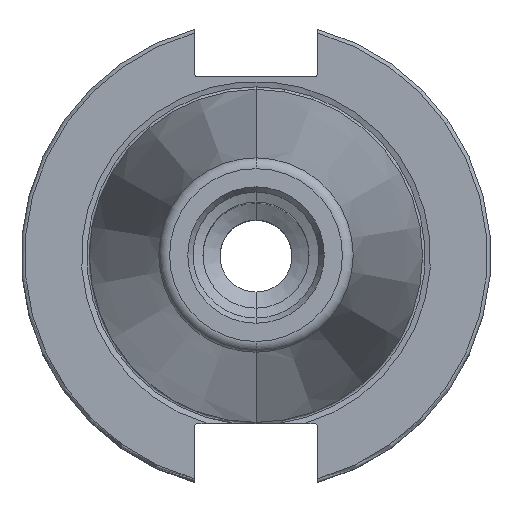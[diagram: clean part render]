
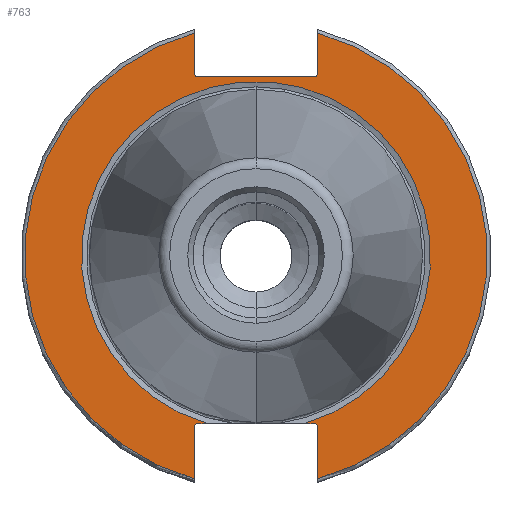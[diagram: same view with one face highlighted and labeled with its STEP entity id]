
A CAD part, top view. The second image highlights one B-rep face of the part: STEP entity #763.
In plain terms, the highlighted planar face has unit normal (0, 0, 1).
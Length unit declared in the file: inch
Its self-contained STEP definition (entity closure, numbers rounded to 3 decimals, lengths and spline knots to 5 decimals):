
#138 = CARTESIAN_POINT ( 'NONE',  ( 0., 0., -0.125 ) ) ;
#161 = CARTESIAN_POINT ( 'NONE',  ( 1.9075, -1.3825, -0.125 ) ) ;
#198 = CARTESIAN_POINT ( 'NONE',  ( -0.48, -1.4125, -0.125 ) ) ;
#223 = AXIS2_PLACEMENT_3D ( 'NONE', #3262, #2871, #3538 ) ;
#237 = VECTOR ( 'NONE', #1764, 39.37008 ) ;
#256 = CARTESIAN_POINT ( 'NONE',  ( 0.48, 1.4775, -0.125 ) ) ;
#261 = CIRCLE ( 'NONE', #1343, 0.03 ) ;
#317 = CARTESIAN_POINT ( 'NONE',  ( 1.9075, 1.4775, -0.125 ) ) ;
#335 = EDGE_CURVE ( 'NONE', #3360, #2115, #3699, .T. ) ;
#359 = DIRECTION ( 'NONE',  ( 0., 1., 0. ) ) ;
#366 = VERTEX_POINT ( 'NONE', #3313 ) ;
#396 = CARTESIAN_POINT ( 'NONE',  ( -0.48, 1.5075, -0.125 ) ) ;
#504 = LINE ( 'NONE', #888, #3402 ) ;
#595 = AXIS2_PLACEMENT_3D ( 'NONE', #1760, #4372, #359 ) ;
#634 = CARTESIAN_POINT ( 'NONE',  ( 0.51, 0., -0.125 ) ) ;
#670 = VECTOR ( 'NONE', #4340, 39.37008 ) ;
#678 = ORIENTED_EDGE ( 'NONE', *, *, #4482, .T. ) ;
#763 = ADVANCED_FACE ( 'NONE', ( #3893 ), #3556, .T. ) ;
#769 = EDGE_LOOP ( 'NONE', ( #4426, #4142, #1782, #3426, #2785, #1233, #3077, #2517, #3293, #3234, #4630, #4277, #2733, #678 ) ) ;
#796 = VERTEX_POINT ( 'NONE', #3278 ) ;
#826 = CIRCLE ( 'NONE', #1447, 1.43979 ) ;
#888 = CARTESIAN_POINT ( 'NONE',  ( 1.9075, -1.3825, -0.125 ) ) ;
#942 = EDGE_CURVE ( 'NONE', #2104, #1724, #261, .T. ) ;
#1058 = AXIS2_PLACEMENT_3D ( 'NONE', #396, #3417, #2287 ) ;
#1143 = CARTESIAN_POINT ( 'NONE',  ( 0.51, 1.83806, -0.125 ) ) ;
#1204 = CIRCLE ( 'NONE', #595, 1.9075 ) ;
#1233 = ORIENTED_EDGE ( 'NONE', *, *, #2985, .T. ) ;
#1292 = CARTESIAN_POINT ( 'NONE',  ( -0.51, 0., -0.125 ) ) ;
#1301 = EDGE_CURVE ( 'NONE', #2031, #796, #3026, .T. ) ;
#1314 = VECTOR ( 'NONE', #1339, 39.37008 ) ;
#1339 = DIRECTION ( 'NONE',  ( 0., 1., 0. ) ) ;
#1343 = AXIS2_PLACEMENT_3D ( 'NONE', #198, #2653, #4109 ) ;
#1360 = VECTOR ( 'NONE', #2322, 39.37008 ) ;
#1402 = CARTESIAN_POINT ( 'NONE',  ( 0.48, 1.5075, -0.125 ) ) ;
#1410 = EDGE_CURVE ( 'NONE', #3616, #2031, #504, .T. ) ;
#1447 = AXIS2_PLACEMENT_3D ( 'NONE', #138, #1540, #4447 ) ;
#1449 = LINE ( 'NONE', #634, #670 ) ;
#1515 = LINE ( 'NONE', #317, #2124 ) ;
#1540 = DIRECTION ( 'NONE',  ( 0., 0., -1. ) ) ;
#1580 = AXIS2_PLACEMENT_3D ( 'NONE', #3327, #3348, #3045 ) ;
#1641 = VERTEX_POINT ( 'NONE', #3286 ) ;
#1724 = VERTEX_POINT ( 'NONE', #2561 ) ;
#1760 = CARTESIAN_POINT ( 'NONE',  ( 0., 0., -0.125 ) ) ;
#1764 = DIRECTION ( 'NONE',  ( 0., -1., 0. ) ) ;
#1772 = VERTEX_POINT ( 'NONE', #3524 ) ;
#1781 = CARTESIAN_POINT ( 'NONE',  ( -0.51, 1.83806, -0.125 ) ) ;
#1782 = ORIENTED_EDGE ( 'NONE', *, *, #4370, .T. ) ;
#1784 = CARTESIAN_POINT ( 'NONE',  ( 0.48, -1.3825, -0.125 ) ) ;
#1808 = EDGE_CURVE ( 'NONE', #796, #1772, #1449, .T. ) ;
#1824 = CIRCLE ( 'NONE', #1058, 0.03 ) ;
#2031 = VERTEX_POINT ( 'NONE', #1784 ) ;
#2063 = LINE ( 'NONE', #1292, #1314 ) ;
#2079 = DIRECTION ( 'NONE',  ( 0., 0., -1. ) ) ;
#2085 = CARTESIAN_POINT ( 'NONE',  ( 0.40209, -1.3825, -0.125 ) ) ;
#2104 = VERTEX_POINT ( 'NONE', #2912 ) ;
#2115 = VERTEX_POINT ( 'NONE', #1143 ) ;
#2124 = VECTOR ( 'NONE', #2863, 39.37008 ) ;
#2221 = CARTESIAN_POINT ( 'NONE',  ( 0.51, 0., -0.125 ) ) ;
#2276 = EDGE_CURVE ( 'NONE', #1724, #2807, #3821, .T. ) ;
#2287 = DIRECTION ( 'NONE',  ( 0., -1., 0. ) ) ;
#2317 = VECTOR ( 'NONE', #3006, 39.37008 ) ;
#2322 = DIRECTION ( 'NONE',  ( 1., 0., 0. ) ) ;
#2406 = CARTESIAN_POINT ( 'NONE',  ( -0.48, 1.4775, -0.125 ) ) ;
#2424 = EDGE_CURVE ( 'NONE', #366, #4091, #1204, .T. ) ;
#2517 = ORIENTED_EDGE ( 'NONE', *, *, #1301, .T. ) ;
#2561 = CARTESIAN_POINT ( 'NONE',  ( -0.48, -1.3825, -0.125 ) ) ;
#2653 = DIRECTION ( 'NONE',  ( 0., 0., -1. ) ) ;
#2720 = EDGE_CURVE ( 'NONE', #2115, #1772, #3128, .T. ) ;
#2733 = ORIENTED_EDGE ( 'NONE', *, *, #3695, .F. ) ;
#2756 = EDGE_CURVE ( 'NONE', #3360, #3056, #2966, .T. ) ;
#2785 = ORIENTED_EDGE ( 'NONE', *, *, #2276, .T. ) ;
#2807 = VERTEX_POINT ( 'NONE', #4590 ) ;
#2863 = DIRECTION ( 'NONE',  ( 1., 0., 0. ) ) ;
#2871 = DIRECTION ( 'NONE',  ( 0., 0., -1. ) ) ;
#2890 = CARTESIAN_POINT ( 'NONE',  ( 0.51, 1.5075, -0.125 ) ) ;
#2912 = CARTESIAN_POINT ( 'NONE',  ( -0.51, -1.4125, -0.125 ) ) ;
#2940 = DIRECTION ( 'NONE',  ( 0., -1., 0. ) ) ;
#2966 = CIRCLE ( 'NONE', #3507, 0.03 ) ;
#2985 = EDGE_CURVE ( 'NONE', #2807, #3616, #826, .T. ) ;
#2993 = DIRECTION ( 'NONE',  ( 0., 0., 1. ) ) ;
#3006 = DIRECTION ( 'NONE',  ( 0., 1., 0. ) ) ;
#3026 = CIRCLE ( 'NONE', #1580, 0.03 ) ;
#3045 = DIRECTION ( 'NONE',  ( 0., -1., 0. ) ) ;
#3056 = VERTEX_POINT ( 'NONE', #256 ) ;
#3077 = ORIENTED_EDGE ( 'NONE', *, *, #1410, .T. ) ;
#3128 = CIRCLE ( 'NONE', #223, 1.9075 ) ;
#3179 = AXIS2_PLACEMENT_3D ( 'NONE', #4013, #2993, #2940 ) ;
#3234 = ORIENTED_EDGE ( 'NONE', *, *, #2720, .F. ) ;
#3262 = CARTESIAN_POINT ( 'NONE',  ( 0., 0., -0.125 ) ) ;
#3278 = CARTESIAN_POINT ( 'NONE',  ( 0.51, -1.4125, -0.125 ) ) ;
#3286 = CARTESIAN_POINT ( 'NONE',  ( -0.51, 1.5075, -0.125 ) ) ;
#3293 = ORIENTED_EDGE ( 'NONE', *, *, #1808, .T. ) ;
#3313 = CARTESIAN_POINT ( 'NONE',  ( -0.51, -1.83806, -0.125 ) ) ;
#3327 = CARTESIAN_POINT ( 'NONE',  ( 0.48, -1.4125, -0.125 ) ) ;
#3348 = DIRECTION ( 'NONE',  ( 0., 0., -1. ) ) ;
#3360 = VERTEX_POINT ( 'NONE', #2890 ) ;
#3402 = VECTOR ( 'NONE', #4502, 39.37008 ) ;
#3417 = DIRECTION ( 'NONE',  ( 0., 0., -1. ) ) ;
#3426 = ORIENTED_EDGE ( 'NONE', *, *, #942, .T. ) ;
#3507 = AXIS2_PLACEMENT_3D ( 'NONE', #1402, #2079, #4342 ) ;
#3524 = CARTESIAN_POINT ( 'NONE',  ( 0.51, -1.83806, -0.125 ) ) ;
#3538 = DIRECTION ( 'NONE',  ( 0., 1., 0. ) ) ;
#3550 = VERTEX_POINT ( 'NONE', #2406 ) ;
#3556 = PLANE ( 'NONE',  #3179 ) ;
#3616 = VERTEX_POINT ( 'NONE', #2085 ) ;
#3695 = EDGE_CURVE ( 'NONE', #3550, #3056, #1515, .T. ) ;
#3699 = LINE ( 'NONE', #2221, #2317 ) ;
#3821 = LINE ( 'NONE', #161, #1360 ) ;
#3893 = FACE_OUTER_BOUND ( 'NONE', #769, .T. ) ;
#4013 = CARTESIAN_POINT ( 'NONE',  ( 1.9075, 0., -0.125 ) ) ;
#4091 = VERTEX_POINT ( 'NONE', #1781 ) ;
#4109 = DIRECTION ( 'NONE',  ( 0., -1., 0. ) ) ;
#4142 = ORIENTED_EDGE ( 'NONE', *, *, #2424, .F. ) ;
#4186 = CARTESIAN_POINT ( 'NONE',  ( -0.51, 0., -0.125 ) ) ;
#4277 = ORIENTED_EDGE ( 'NONE', *, *, #2756, .T. ) ;
#4340 = DIRECTION ( 'NONE',  ( 0., -1., 0. ) ) ;
#4342 = DIRECTION ( 'NONE',  ( 0., -1., 0. ) ) ;
#4370 = EDGE_CURVE ( 'NONE', #366, #2104, #2063, .T. ) ;
#4372 = DIRECTION ( 'NONE',  ( 0., 0., -1. ) ) ;
#4426 = ORIENTED_EDGE ( 'NONE', *, *, #4607, .F. ) ;
#4447 = DIRECTION ( 'NONE',  ( 0., 1., 0. ) ) ;
#4482 = EDGE_CURVE ( 'NONE', #3550, #1641, #1824, .T. ) ;
#4502 = DIRECTION ( 'NONE',  ( 1., 0., 0. ) ) ;
#4589 = LINE ( 'NONE', #4186, #237 ) ;
#4590 = CARTESIAN_POINT ( 'NONE',  ( -0.40209, -1.3825, -0.125 ) ) ;
#4607 = EDGE_CURVE ( 'NONE', #4091, #1641, #4589, .T. ) ;
#4630 = ORIENTED_EDGE ( 'NONE', *, *, #335, .F. ) ;
